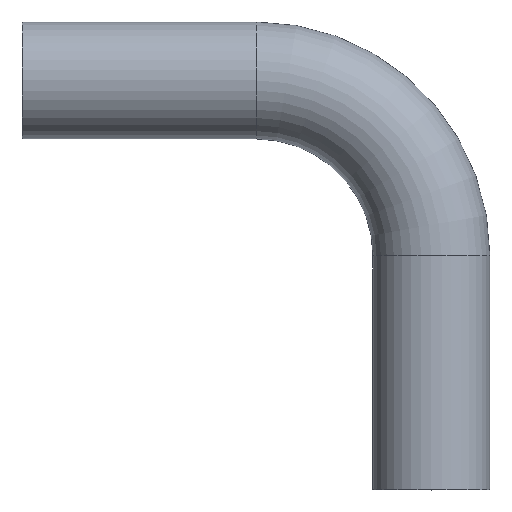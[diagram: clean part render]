
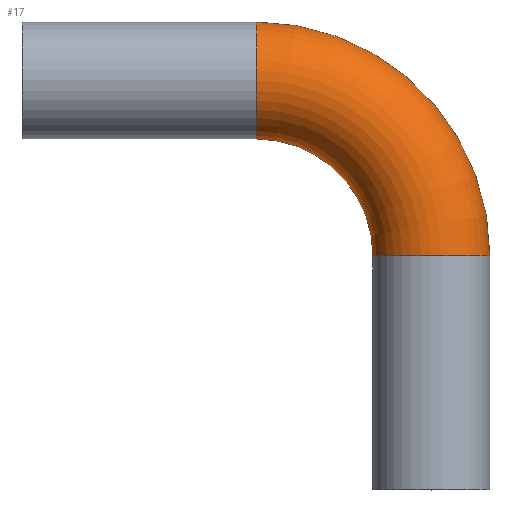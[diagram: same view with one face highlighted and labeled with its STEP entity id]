
A CAD part, top view. The second image highlights one B-rep face of the part: STEP entity #17.
In plain terms, the highlighted toroidal (fillet/blend) face has major radius 36 mm and minor radius 12 mm.
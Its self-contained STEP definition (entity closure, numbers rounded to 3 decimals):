
#17 = ADVANCED_FACE('',(#18),#64,.T.);
#18 = FACE_BOUND('',#19,.T.);
#19 = EDGE_LOOP('',(#20,#31,#40,#49,#56,#57));
#20 = ORIENTED_EDGE('',*,*,#21,.F.);
#21 = EDGE_CURVE('',#22,#24,#26,.T.);
#22 = VERTEX_POINT('',#23);
#23 = CARTESIAN_POINT('',(24.,0.,0.));
#24 = VERTEX_POINT('',#25);
#25 = CARTESIAN_POINT('',(36.,0.,12.));
#26 = CIRCLE('',#27,12.);
#27 = AXIS2_PLACEMENT_3D('',#28,#29,#30);
#28 = CARTESIAN_POINT('',(36.,0.,0.));
#29 = DIRECTION('',(0.,-1.,0.));
#30 = DIRECTION('',(1.,0.,0.));
#31 = ORIENTED_EDGE('',*,*,#32,.T.);
#32 = EDGE_CURVE('',#22,#33,#35,.T.);
#33 = VERTEX_POINT('',#34);
#34 = CARTESIAN_POINT('',(0.,24.,0.));
#35 = CIRCLE('',#36,24.);
#36 = AXIS2_PLACEMENT_3D('',#37,#38,#39);
#37 = CARTESIAN_POINT('',(0.,0.,0.));
#38 = DIRECTION('',(0.,0.,1.));
#39 = DIRECTION('',(1.,0.,-0.));
#40 = ORIENTED_EDGE('',*,*,#41,.T.);
#41 = EDGE_CURVE('',#33,#42,#44,.T.);
#42 = VERTEX_POINT('',#43);
#43 = CARTESIAN_POINT('',(0.,36.,12.));
#44 = CIRCLE('',#45,12.);
#45 = AXIS2_PLACEMENT_3D('',#46,#47,#48);
#46 = CARTESIAN_POINT('',(0.,36.,0.));
#47 = DIRECTION('',(1.,0.,0.));
#48 = DIRECTION('',(0.,1.,0.));
#49 = ORIENTED_EDGE('',*,*,#50,.T.);
#50 = EDGE_CURVE('',#42,#33,#51,.T.);
#51 = CIRCLE('',#52,12.);
#52 = AXIS2_PLACEMENT_3D('',#53,#54,#55);
#53 = CARTESIAN_POINT('',(0.,36.,0.));
#54 = DIRECTION('',(1.,0.,0.));
#55 = DIRECTION('',(0.,1.,0.));
#56 = ORIENTED_EDGE('',*,*,#32,.F.);
#57 = ORIENTED_EDGE('',*,*,#58,.F.);
#58 = EDGE_CURVE('',#24,#22,#59,.T.);
#59 = CIRCLE('',#60,12.);
#60 = AXIS2_PLACEMENT_3D('',#61,#62,#63);
#61 = CARTESIAN_POINT('',(36.,0.,0.));
#62 = DIRECTION('',(0.,-1.,0.));
#63 = DIRECTION('',(1.,0.,0.));
#64 = TOROIDAL_SURFACE('',#65,36.,12.);
#65 = AXIS2_PLACEMENT_3D('',#66,#67,#68);
#66 = CARTESIAN_POINT('',(0.,0.,0.));
#67 = DIRECTION('',(0.,0.,1.));
#68 = DIRECTION('',(1.,0.,-0.));
